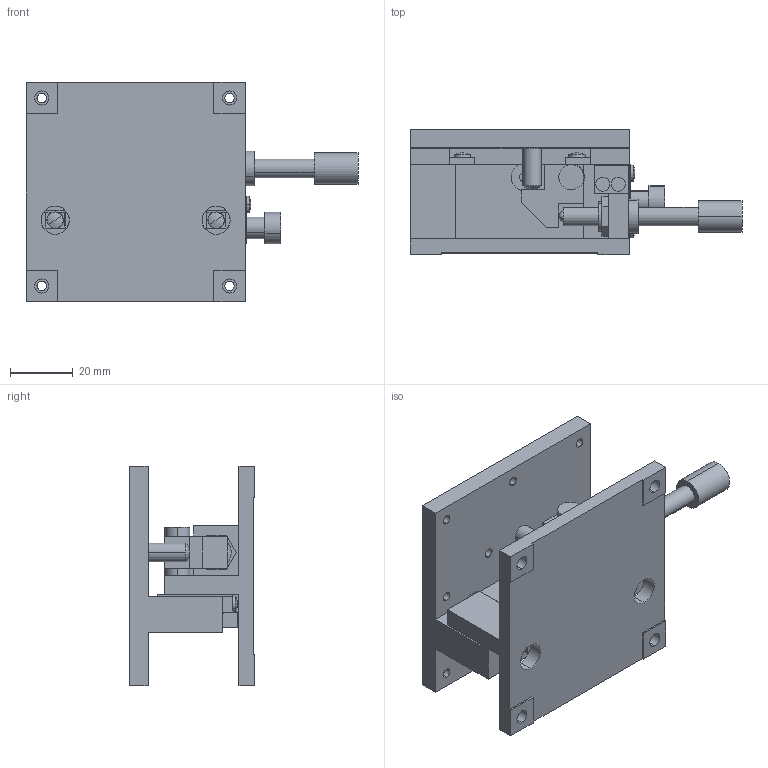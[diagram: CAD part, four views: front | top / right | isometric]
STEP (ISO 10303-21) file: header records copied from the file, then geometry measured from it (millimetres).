
FILE_DESCRIPTION (( 'STEP AP214' ), '1' );
FILE_NAME ('LV‐7041‐6.STEP', '2007-09-11T11:47:10', ( '' ), ( '' ), 'SwSTEP 2.0', 'SolidWorks 2006303', '' );
FILE_SCHEMA (( 'AUTOMOTIVE_DESIGN' ));
Length unit declared in the file: millimetre
Products named in the file (5): LV‐7041‐6; LV70410060乚2_棉太倌; LV70410060乚3_棉太倌; LV70410060乚1_棉太倌; LV70410060乚4_棉太倌
Assembly tree (4 placements, depth 2):
  LV‐7041‐6
    LV70410060乚3_棉太倌
    LV70410060乚2_棉太倌
    LV70410060乚4_棉太倌
    LV70410060乚1_棉太倌
Bounding box: 106 x 40 x 70 mm (x, y, z)
Volume: 83491.4 mm3; surface area: 37558.6 mm2
Topology: 4 solids, 5 shells, 251 faces, 644 edges, 414 vertices
Faces by surface type: plane 139, cylinder 84, sphere 16, cone 12
Entity records: 7830 total; most frequent: DIRECTION 1403, CARTESIAN_POINT 1310, ORIENTED_EDGE 1280, EDGE_CURVE 640, AXIS2_PLACEMENT_3D 505, VERTEX_POINT 412, VECTOR 393, LINE 393
